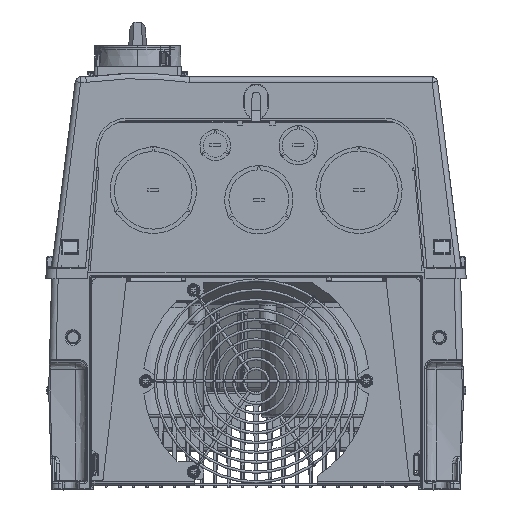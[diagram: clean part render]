
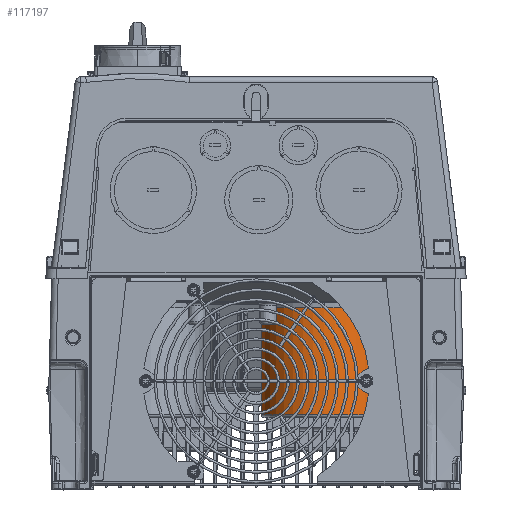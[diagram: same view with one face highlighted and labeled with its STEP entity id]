
A CAD part, front view. The second image highlights one B-rep face of the part: STEP entity #117197.
In plain terms, the highlighted cylindrical face has radius 46.1 mm (diameter 92.2 mm), a partial arc.
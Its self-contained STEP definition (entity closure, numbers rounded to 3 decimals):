
#20063=CARTESIAN_POINT('',(50.,-201.5,-104.813));
#20064=DIRECTION('',(0.,0.,1.));
#20065=DIRECTION('',(-1.,0.,0.));
#20066=AXIS2_PLACEMENT_3D('',#20063,#20064,#20065);
#20068=CARTESIAN_POINT('',(50.,-201.5,-26.2));
#20069=DIRECTION('',(0.,0.,-1.));
#20070=DIRECTION('',(0.,-1.,0.));
#20071=AXIS2_PLACEMENT_3D('',#20068,#20069,#20070);
#20073=CARTESIAN_POINT('',(50.,-201.5,-26.2));
#20074=DIRECTION('',(0.,0.,-1.));
#20075=DIRECTION('',(1.,0.,0.));
#20076=AXIS2_PLACEMENT_3D('',#20073,#20074,#20075);
#20078=DIRECTION('',(0.,0.,-1.));
#20079=VECTOR('',#20078,78.613);
#20080=CARTESIAN_POINT('',(96.1,-201.5,-26.2));
#20081=LINE('',#20080,#20079);
#20107=DIRECTION('',(0.,0.,-1.));
#20108=VECTOR('',#20107,78.613);
#20109=CARTESIAN_POINT('',(3.9,-201.5,-26.2));
#20110=LINE('',#20109,#20108);
#77682=CARTESIAN_POINT('',(96.1,-201.5,-26.2));
#77683=CARTESIAN_POINT('',(50.,-247.6,-26.2));
#77684=VERTEX_POINT('',#77682);
#77685=VERTEX_POINT('',#77683);
#77686=CARTESIAN_POINT('',(3.9,-201.5,-26.2));
#77687=VERTEX_POINT('',#77686);
#77716=CARTESIAN_POINT('',(96.1,-201.5,-104.813));
#77717=CARTESIAN_POINT('',(3.9,-201.5,-104.813));
#77718=VERTEX_POINT('',#77716);
#77719=VERTEX_POINT('',#77717);
#117181=CARTESIAN_POINT('',(50.,-201.5,3.));
#117182=DIRECTION('',(0.,0.,-1.));
#117183=DIRECTION('',(1.,0.,0.));
#117184=AXIS2_PLACEMENT_3D('',#117181,#117182,#117183);
#117185=CYLINDRICAL_SURFACE('',#117184,46.1);
#117187=ORIENTED_EDGE('',*,*,#117186,.F.);
#117189=ORIENTED_EDGE('',*,*,#117188,.F.);
#117190=ORIENTED_EDGE('',*,*,#117169,.F.);
#117192=ORIENTED_EDGE('',*,*,#117191,.F.);
#117194=ORIENTED_EDGE('',*,*,#117193,.T.);
#117195=EDGE_LOOP('',(#117187,#117189,#117190,#117192,#117194));
#117196=FACE_OUTER_BOUND('',#117195,.F.);
#20067=CIRCLE('',#20066,46.1);
#20072=CIRCLE('',#20071,46.1);
#20077=CIRCLE('',#20076,46.1);
#117169=EDGE_CURVE('',#77685,#77687,#20072,.T.);
#117186=EDGE_CURVE('',#77719,#77718,#20067,.T.);
#117188=EDGE_CURVE('',#77687,#77719,#20110,.T.);
#117191=EDGE_CURVE('',#77684,#77685,#20077,.T.);
#117193=EDGE_CURVE('',#77684,#77718,#20081,.T.);
#117197=ADVANCED_FACE('',(#117196),#117185,.T.);
